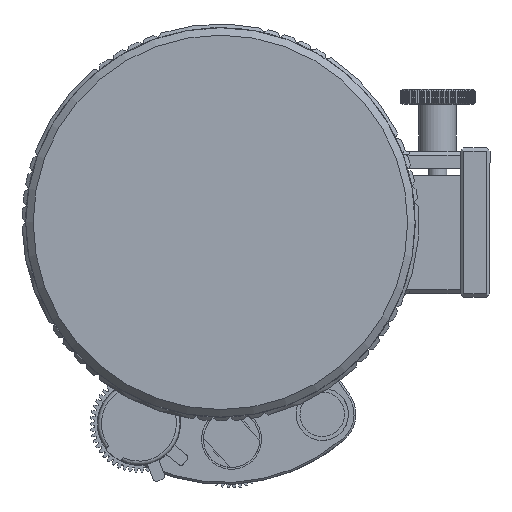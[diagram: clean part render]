
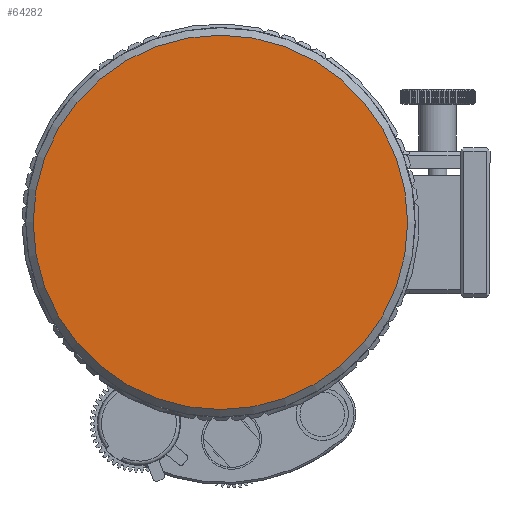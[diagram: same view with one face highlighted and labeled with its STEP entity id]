
A CAD part, left-side view. The second image highlights one B-rep face of the part: STEP entity #64282.
In plain terms, the highlighted planar face has unit normal (-1, 0, 0).
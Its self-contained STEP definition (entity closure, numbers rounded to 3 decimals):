
#64262=CARTESIAN_POINT('',(-173.682,50.,0.));
#64263=VERTEX_POINT('',#64262);
#64264=CARTESIAN_POINT('',(-173.682,0.,0.));
#64265=DIRECTION('',(1.0,0.0,0.0));
#64266=DIRECTION('',(0.0,-1.0,0.0));
#64267=AXIS2_PLACEMENT_3D('',#64264,#64265,#64266);
#64268=CIRCLE('',#64267,50.);
#64269=EDGE_CURVE('',#64263,#64263,#64268,.T.);
#64274=CARTESIAN_POINT('',(-173.682,49.75,0.));
#64275=DIRECTION('',(-1.0,0.0,0.0));
#64276=DIRECTION('',(0.0,0.0,-1.0));
#64277=AXIS2_PLACEMENT_3D('',#64274,#64275,#64276);
#64278=PLANE('',#64277);
#64279=ORIENTED_EDGE('',*,*,#64269,.F.);
#64280=EDGE_LOOP('',(#64279));
#64281=FACE_OUTER_BOUND('',#64280,.T.);
#64282=ADVANCED_FACE('',(#64281),#64278,.T.);
